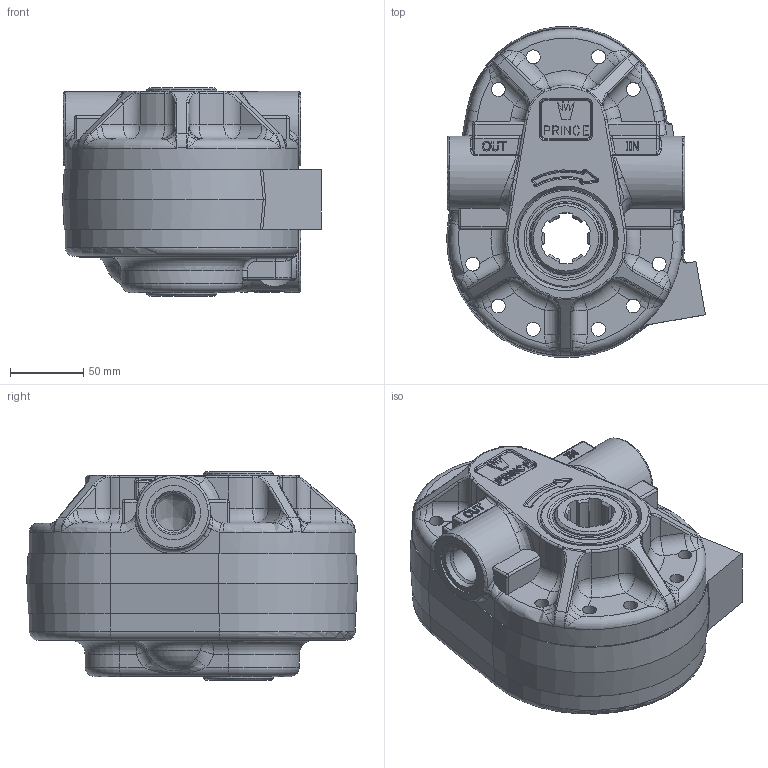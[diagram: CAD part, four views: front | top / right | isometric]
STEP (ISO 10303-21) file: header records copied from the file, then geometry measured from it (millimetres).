
FILE_DESCRIPTION((''),'2;1');
FILE_NAME('C:\Vault\Workspace\AssembliesPumps\HC-PTO_\HC-PTO-2Amodel.stp','2013-06-05T09:11:13',('otterbyj'),(''),'Autodesk Inventor 2012','Autodesk Inventor 2012','');
FILE_SCHEMA(('AUTOMOTIVE_DESIGN { 1 0 10303 214 1 1 1 1 }'));
Length unit declared in the file: inch
Products named in the file (6): HC-PTO-2Amodel; 500101004; 500101014; 500103021; 240016026; 500104021m
Assembly tree (6 placements, depth 2):
  HC-PTO-2Amodel
    500101004
    500101014
    500103021
    240016026  x2
    500104021m
Bounding box: 176.37 x 225.58 x 142.24 mm (x, y, z)
Volume: 2143162.4 mm3; surface area: 373919.8 mm2
Topology: 6 solids, 8 shells, 1139 faces, 2901 edges, 1786 vertices
Faces by surface type: plane 379, bspline 299, cylinder 247, torus 102, cone 87, sphere 25
Full cylindrical faces by diameter (mm): 7.798 x2, 8.731 x2, 9.525 x14, 9.545 x6, 10.319 x28, 16.256 x1, 19.05 x2, 23.8 x1, 24.994 x1, 28.702 x1, 30.937 x1, 31.75 x1, 37.033 x2, 38.1 x1, 41.255 x2, 42.926 x1, 44.348 x1, 47.582 x1, 53.184 x2, 61.04 x2, 61.89 x1, 61.915 x1, 64.77 x2, 66.599 x2, 66.802 x2
Entity records: 41812 total; most frequent: CARTESIAN_POINT 16097, ORIENTED_EDGE 5256, DIRECTION 4572, EDGE_CURVE 2628, AXIS2_PLACEMENT_3D 1727, VERTEX_POINT 1694, EDGE_LOOP 1380, VECTOR 1118
